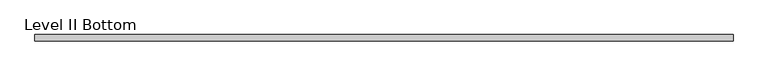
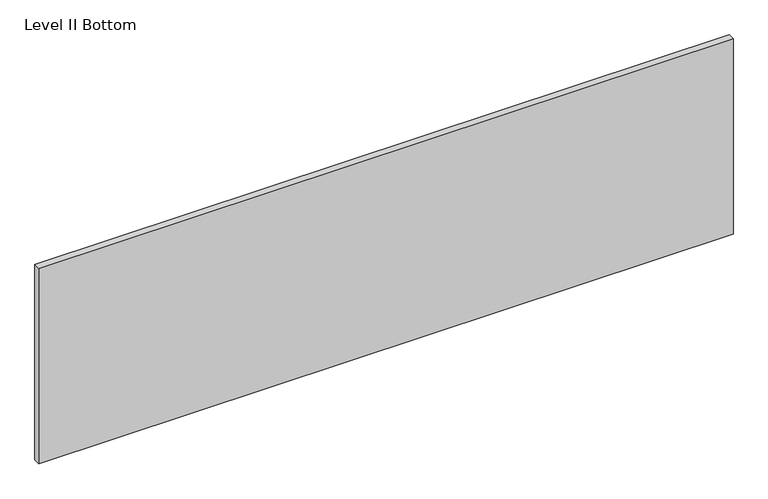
"""IFC4 building model written with IfcOpenShell, lengths in millimetres: proxy geometry, Panel-Fascia-Teknion-Altos-Landscape : Level II Bottom."""

import ifcopenshell
import ifcopenshell.guid

model = None  # the IFC model being written
_history = None  # IfcOwnerHistory: only IFC2X3 demands one
_inside = {}  # id of a spatial element -> (the spatial element, [elements in it])
_under = {}  # id of a project, library or spatial element -> (it, [spatial elements below it])
_declared = {}  # id of a project -> (the project, [libraries it declares])
_typed = {}  # id of a type object -> (the type object, [elements of that type])
_made_of = {}  # id of a material, layer set ... -> (it, [elements and type objects made of it])


def new_model(schema):
    """Start an empty IFC model of exactly this schema.

    Asked for "IFC4X3", IfcOpenShell would pick the latest addendum, in which some entities
    have other attributes; the version numbers below select the first issue.
    IFC2X3 requires an IfcOwnerHistory on every rooted entity: one is made here for all.
    """
    global model, _history
    if schema == "IFC4X3":
        model = ifcopenshell.file(schema_version=(4, 3, 0, 0))
    else:
        model = ifcopenshell.file(schema=schema)
    _inside.clear()
    _under.clear()
    _declared.clear()
    _typed.clear()
    _made_of.clear()
    _history = None
    if model.schema == "IFC2X3":
        org = make("IfcOrganization", Name="unknown")
        user = make(
            "IfcPersonAndOrganization",
            ThePerson=make("IfcPerson", FamilyName="unknown"),
            TheOrganization=org,
        )
        app = make(
            "IfcApplication",
            ApplicationDeveloper=org,
            Version="unknown",
            ApplicationFullName="unknown",
            ApplicationIdentifier="unknown",
        )
        _history = make(
            "IfcOwnerHistory",
            OwningUser=user,
            OwningApplication=app,
            ChangeAction="ADDED",
            CreationDate=0,
        )
    return model


def make(cls, **values):
    """One entity of the class cls with the attributes given. An attribute that is None is left unset."""
    return model.create_entity(
        cls, **{name: value for name, value in values.items() if value is not None}
    )


def rooted(cls, **values):
    """An entity with a GlobalId (a new one), such as an element, a storey or a relation."""
    return make(cls, GlobalId=ifcopenshell.guid.new(), OwnerHistory=_history, **values)


def si_unit(unit_type, name, prefix=None):
    """IfcSIUnit, for example si_unit("LENGTHUNIT", "METRE", prefix="MILLI")."""
    return make("IfcSIUnit", UnitType=unit_type, Prefix=prefix, Name=name)


def assignment(units):
    """IfcUnitAssignment: the units of a project."""
    return None if units is None else make("IfcUnitAssignment", Units=units)


def point(xyz):
    """IfcCartesianPoint."""
    return None if xyz is None else make("IfcCartesianPoint", Coordinates=xyz)


def direction(xyz):
    """IfcDirection."""
    return None if xyz is None else make("IfcDirection", DirectionRatios=xyz)


def frame(location, z_axis=None, x_axis=None):
    """IfcAxis2Placement3D, a coordinate frame: its origin and axes. An axis left out is left unset."""
    return make(
        "IfcAxis2Placement3D",
        Location=point(location),
        Axis=direction(z_axis),
        RefDirection=direction(x_axis),
    )


def origin():
    """The frame at (0, 0, 0) with its axes left unset."""
    return frame((0.0, 0.0, 0.0))


def place(relative_to, where):
    """IfcLocalPlacement: puts the frame where relative to a parent placement (None: the world)."""
    return make(
        "IfcLocalPlacement", PlacementRelTo=relative_to, RelativePlacement=where
    )


def context(
    kind, dimensions, precision=None, world=None, true_north=None, identifier=None
):
    """IfcGeometricRepresentationContext, for example the 3D "Model" context."""
    return make(
        "IfcGeometricRepresentationContext",
        ContextIdentifier=identifier,
        ContextType=kind,
        CoordinateSpaceDimension=dimensions,
        Precision=precision,
        WorldCoordinateSystem=world,
        TrueNorth=true_north,
    )


def project(units=None, contexts=None):
    """IfcProject with its units and contexts."""
    return rooted(
        "IfcProject",
        Name="project",
        RepresentationContexts=contexts,
        UnitsInContext=assignment(units),
    )


def spatial(cls, under=None, at=None, **own):
    """A site, building, storey or space (cls), placed at a placement, below another one or the project."""
    s = rooted(cls, ObjectPlacement=at, **own)
    if under is not None:
        _under.setdefault(under.id(), (under, []))[1].append(s)
    return s


def polyline(points):
    """IfcPolyline through the points."""
    return make("IfcPolyline", Points=[point(p) for p in points])


def outline(outer, holes=None, kind="AREA"):
    """IfcArbitraryClosedProfileDef: a profile drawn as a closed curve; with holes, ...WithVoids."""
    if holes is None:
        return make("IfcArbitraryClosedProfileDef", ProfileType=kind, OuterCurve=outer)
    return make(
        "IfcArbitraryProfileDefWithVoids",
        ProfileType=kind,
        OuterCurve=outer,
        InnerCurves=holes,
    )


def extrude(swept, where, along, depth):
    """IfcExtrudedAreaSolid: the profile swept, set in the frame where, extruded along a direction by depth."""
    return make(
        "IfcExtrudedAreaSolid",
        SweptArea=swept,
        Position=where,
        ExtrudedDirection=direction(along),
        Depth=depth,
    )


def shape(context_of_items, identifier, shape_type, items):
    """IfcShapeRepresentation: the items that make up one representation, for example the "Body"."""
    return make(
        "IfcShapeRepresentation",
        ContextOfItems=context_of_items,
        RepresentationIdentifier=identifier,
        RepresentationType=shape_type,
        Items=items,
    )


def source(mapping_origin, context_of_items, identifier, shape_type, items):
    """IfcRepresentationMap: a shape defined once, which mapped items show again and again."""
    return make(
        "IfcRepresentationMap",
        MappingOrigin=mapping_origin,
        MappedRepresentation=shape(context_of_items, identifier, shape_type, items),
    )


def transform(
    local_origin,
    x_axis=None,
    y_axis=None,
    z_axis=None,
    scale=None,
    scale2=None,
    scale3=None,
    uniform=True,
):
    """IfcCartesianTransformationOperator3D, or its non-uniform kind. x_axis, y_axis, z_axis: its Axis1, 2, 3."""
    if uniform:
        return make(
            "IfcCartesianTransformationOperator3D",
            Axis1=direction(x_axis),
            Axis2=direction(y_axis),
            LocalOrigin=point(local_origin),
            Scale=scale,
            Axis3=direction(z_axis),
        )
    return make(
        "IfcCartesianTransformationOperator3DnonUniform",
        Axis1=direction(x_axis),
        Axis2=direction(y_axis),
        LocalOrigin=point(local_origin),
        Scale=scale,
        Axis3=direction(z_axis),
        Scale2=scale2,
        Scale3=scale3,
    )


def mapped(mapping_source, mapping_target):
    """IfcMappedItem: shows the shape of a source again, moved by a transform."""
    return make(
        "IfcMappedItem", MappingSource=mapping_source, MappingTarget=mapping_target
    )


def made_of(thing, what):
    """Note that an element or type object is made of a material, layer set ...; save() writes the relation."""
    if what is not None:
        _made_of.setdefault(what.id(), (what, []))[1].append(thing)
    return thing


def element(
    cls,
    number,
    at=None,
    inside=None,
    cuts=None,
    type_object=None,
    material=None,
    context=None,
    identifier="Body",
    shape_type=None,
    held_by="IfcProductDefinitionShape",
    body=None,
    shapes=None,
    **own,
):
    """One element of the class cls, such as IfcWall. Its Tag is "e" and its number.

    at: its placement. inside: the storey or other place that contains it. cuts: it is an
    opening in that element (IfcRelVoidsElement). A single representation is given by context,
    identifier, shape_type and body (its items); several are given by shapes. held_by: the class
    of the entity that holds the representations. save() writes the other relations.
    """
    e = rooted(cls, Tag="e%d" % number, ObjectPlacement=at, **own)
    if body is not None:
        shapes = [shape(context, identifier, shape_type, body)]
    if shapes is not None:
        e.Representation = make(held_by, Representations=shapes)
    if inside is not None:
        _inside.setdefault(inside.id(), (inside, []))[1].append(e)
    if cuts is not None:
        rooted(
            "IfcRelVoidsElement", RelatingBuildingElement=cuts, RelatedOpeningElement=e
        )
    if type_object is not None:
        _typed.setdefault(type_object.id(), (type_object, []))[1].append(e)
    return made_of(e, material)


def aggregate(whole, parts):
    """IfcRelAggregates: a whole, such as a stair, and the parts it consists of."""
    return rooted("IfcRelAggregates", RelatingObject=whole, RelatedObjects=parts)


def save(model, path):
    """Write the relations noted so far, then the file.

    IfcRelAggregates (storeys below a building ...), IfcRelContainedInSpatialStructure (elements
    in a storey), IfcRelDefinesByType, IfcRelAssociatesMaterial and IfcRelDeclares: one each for
    every whole, place, type object, material and project.
    """
    for whole, parts in _under.values():
        aggregate(whole, parts)
    for where, things in _inside.values():
        rooted(
            "IfcRelContainedInSpatialStructure",
            RelatedElements=things,
            RelatingStructure=where,
        )
    for kind, things in _typed.values():
        rooted("IfcRelDefinesByType", RelatedObjects=things, RelatingType=kind)
    for what, things in _made_of.values():
        rooted("IfcRelAssociatesMaterial", RelatedObjects=things, RelatingMaterial=what)
    for by, libraries in _declared.values():
        rooted("IfcRelDeclares", RelatingContext=by, RelatedDefinitions=libraries)
    model.write(path)


def level_ii_bottom_3c53565b(model_context):
    return source(origin(), model_context, "Body", "SweptSolid", [
        extrude(outline(polyline([(1012.8305563, 9.525), (1012.8305563, -9.525), (-1012.8305562, -9.525), (-1012.8305562, 9.525), (1012.8305563, 9.525)])), frame((0.0, 0.0, 3.175), z_axis=(0.0, 0.0, 1.0), x_axis=(1.0, 0.0, 0.0)), (0.0, 0.0, 1.0), 603.25),
    ])


if __name__ == "__main__":
    model = new_model("IFC4")
    model_context = context("Model", 3, world=origin())
    ifc_project = project(units=[si_unit("LENGTHUNIT", "METRE", prefix="MILLI")], contexts=[model_context])
    site = spatial("IfcSite", under=ifc_project)
    building = spatial("IfcBuilding", under=site)
    placement = place(None, origin())
    level_ii_bottom_shape = level_ii_bottom_3c53565b(model_context)
    element("IfcBuildingElementProxy", 1, Name="Panel-Fascia-Teknion-Altos-Landscape : Level II Bottom", ObjectType="Panel-Fascia-Teknion-Altos-Landscape : Level II Bottom", at=placement, inside=building, context=model_context, shape_type="MappedRepresentation", body=[
        mapped(level_ii_bottom_shape, transform((0.0, 0.0, 0.0), x_axis=(1.0, 0.0, 0.0), y_axis=(0.0, 1.0, 0.0), z_axis=(0.0, 0.0, 1.0))),
    ])
    save(model, "model.ifc")
